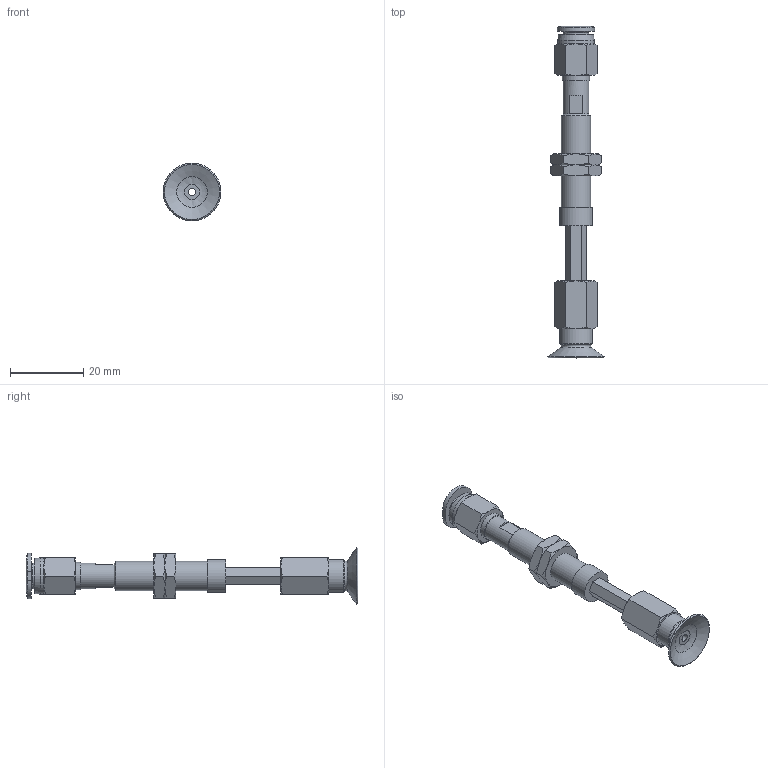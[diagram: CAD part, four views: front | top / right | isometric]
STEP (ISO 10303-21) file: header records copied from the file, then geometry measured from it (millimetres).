
FILE_DESCRIPTION(('STEP AP203'),'1');
FILE_NAME('-O.stp','2025-08-27T03:16:35',(' '),(' '),'Spatial InterOp 3D',' ',' ');
FILE_SCHEMA(('CONFIG_CONTROL_DESIGN'));
Length unit declared in the file: millimetre
Products named in the file (7): BNABPFTH-15A-15-※-O; ADAPTER; NAPATH-10A-15--M; Nut-15A-15-h; NAPFTH-15A-15-FBODY; BPFG-15A-※; PC-C_06-M5
Assembly tree (7 placements, depth 2):
  BNABPFTH-15A-15-※-O
    ADAPTER
    NAPATH-10A-15--M
    Nut-15A-15-h  x2
    NAPFTH-15A-15-FBODY
    BPFG-15A-※
    PC-C_06-M5
Bounding box: 15.7 x 90.48 x 15.7 mm (x, y, z)
Volume: 4048.6 mm3; surface area: 6021.2 mm2
Topology: 6 solids, 9 shells, 174 faces, 366 edges, 222 vertices
Faces by surface type: plane 70, cone 62, cylinder 23, torus 11, bspline 5, revolution 3
Full cylindrical faces by diameter (mm): 2 x3, 4 x4, 4.134 x1, 5 x1, 6 x2, 7 x2, 7.188 x2, 7.4 x1, 8 x1, 8.2 x1, 9 x2, 10 x1
Entity records: 4515 total; most frequent: CARTESIAN_POINT 1271, DIRECTION 597, ORIENTED_EDGE 522, EDGE_CURVE 263, AXIS2_PLACEMENT_3D 259, EDGE_LOOP 222, VERTEX_POINT 185, FACE_OUTER_BOUND 123
